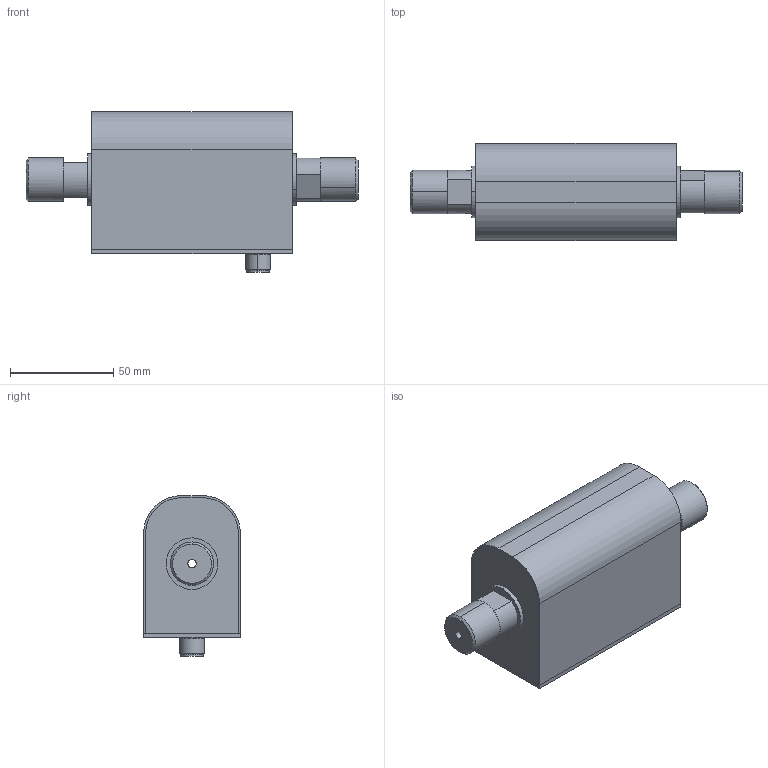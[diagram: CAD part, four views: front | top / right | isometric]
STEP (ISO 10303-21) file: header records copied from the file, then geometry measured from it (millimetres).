
FILE_DESCRIPTION (( 'STEP AP203' ), '1' );
FILE_NAME ('F32_Thread_DN4.STEP', '2019-10-03T16:43:05', ( 'Uživatel systému Windows' ), ( '' ), 'SwSTEP 2.0', 'SolidWorks 2017', '' );
FILE_SCHEMA (( 'CONFIG_CONTROL_DESIGN' ));
Length unit declared in the file: millimetre
Products named in the file (8): F32-130-3-3_2019(F32DN4-18 Výpylek èela); Konektor M12_8pin; F32-90-1-3_2018(F32DN4-20_Kryt Plech_r2); F32-11-20-3_2019 (F32 G1_2 šroubení DN4-15); F32-90-3-2_2019(F32 DN4-18 閣咜ek Plech bez displeje ); F32_Thread_DN4; FPW_Svìtlovod; FPW_Svìtlovod2
Assembly tree (9 placements, depth 2):
  F32_Thread_DN4
    F32-130-3-3_2019(F32DN4-18 Výpylek èela)  x2
    F32-90-1-3_2018(F32DN4-20_Kryt Plech_r2)
    F32-90-3-2_2019(F32 DN4-18 閣咜ek Plech bez displeje )
    FPW_Svìtlovod
    FPW_Svìtlovod2
    Konektor M12_8pin
    F32-11-20-3_2019 (F32 G1_2 šroubení DN4-15)  x2
Bounding box: 161 x 47 x 78 mm (x, y, z)
Volume: 86771.6 mm3; surface area: 69195.3 mm2
Topology: 9 solids, 9 shells, 519 faces, 1334 edges, 868 vertices
Faces by surface type: plane 326, cylinder 143, cone 22, bspline 20, torus 8
Entity records: 15407 total; most frequent: CARTESIAN_POINT 2860, ORIENTED_EDGE 2420, DIRECTION 2405, EDGE_CURVE 1210, VECTOR 899, LINE 899, VERTEX_POINT 798, AXIS2_PLACEMENT_3D 753
